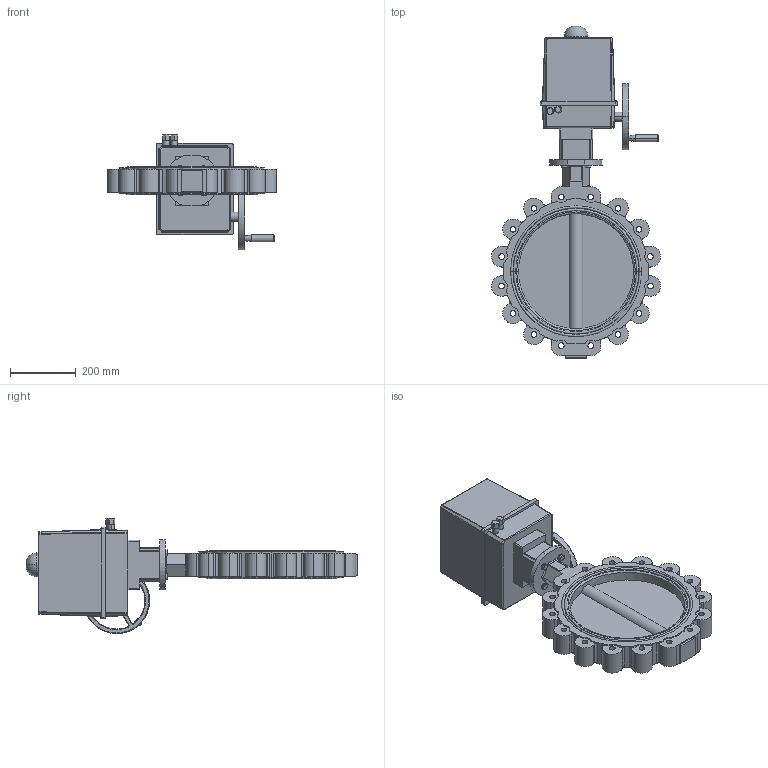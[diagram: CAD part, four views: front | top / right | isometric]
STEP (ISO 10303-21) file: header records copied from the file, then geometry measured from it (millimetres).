
FILE_DESCRIPTION (( 'STEP AP214' ), '1' );
FILE_NAME ('67670.step', '2020-10-26T06:45:00', ( '' ), ( '' ), 'SwSTEP 2.0', 'SolidWorks 2019', '' );
FILE_SCHEMA (( 'AUTOMOTIVE_DESIGN' ));
Length unit declared in the file: millimetre
Products named in the file (6): 67670; PSQ 703_PSQ 703-43-24VDC-F10; U-Scheibe DIN 125 A_M10; 6kt-Schr DIN 933_M10x30; Steckkupplung PSQ 503-1503_PSQ 503-1503 VK-22; TL20-0350_M01
Assembly tree (11 placements, depth 2):
  67670
    TL20-0350_M01
    PSQ 703_PSQ 703-43-24VDC-F10
    Steckkupplung PSQ 503-1503_PSQ 503-1503 VK-22
    6kt-Schr DIN 933_M10x30  x4
    U-Scheibe DIN 125 A_M10  x4
Bounding box: 513.15 x 1007.5 x 350 mm (x, y, z)
Volume: 25578596.5 mm3; surface area: 1295670.8 mm2
Topology: 11 solids, 11 shells, 961 faces, 2524 edges, 1588 vertices
Faces by surface type: cylinder 457, plane 370, torus 63, cone 45, sphere 16, bspline 10
Entity records: 30905 total; most frequent: CARTESIAN_POINT 5499, DIRECTION 4957, ORIENTED_EDGE 4584, EDGE_CURVE 2292, AXIS2_PLACEMENT_3D 1894, VERTEX_POINT 1468, LINE 1169, VECTOR 1169
